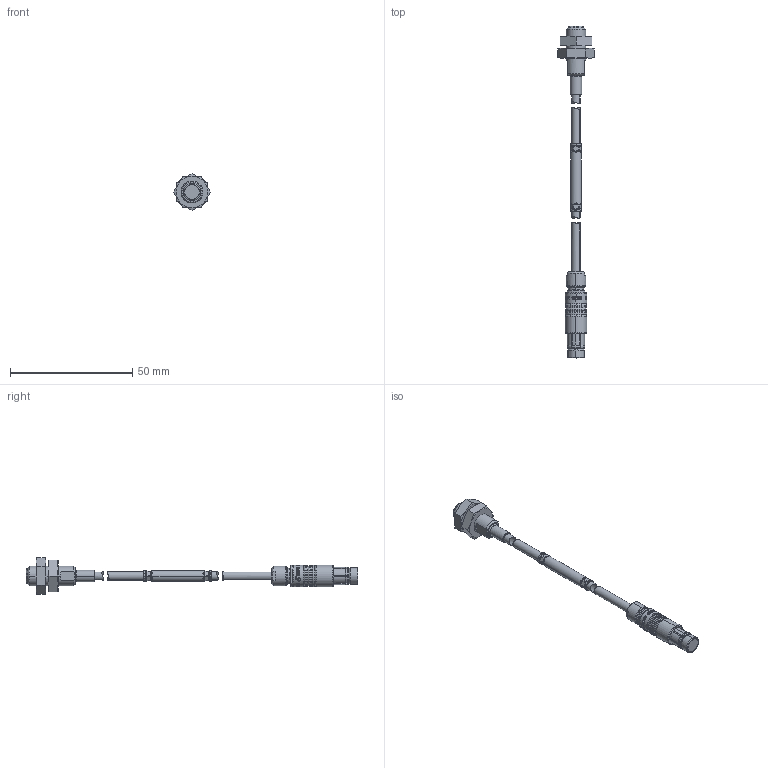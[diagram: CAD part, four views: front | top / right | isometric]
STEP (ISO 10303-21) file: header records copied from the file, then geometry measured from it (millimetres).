
FILE_DESCRIPTION((''),'2;1');
FILE_NAME('Z2609160_80-A','2023-04-20T10:41:08',('11000775'),(''),'CREO PARAMETRIC BY PTC INC, 2020184','CREO PARAMETRIC BY PTC INC, 2020184','');
FILE_SCHEMA(('AUTOMOTIVE_DESIGN { 1 0 10303 214 1 1 1 1 }'));
Products named in the file (1): Z2609160_80-A
Bounding box: 15.01 x 135.94 x 15.01 mm (x, y, z)
Volume: 4355.3 mm3; surface area: 4976.7 mm2
Topology: 4 solids, 4 shells, 958 faces, 2589 edges, 1693 vertices
Faces by surface type: bspline 338, plane 321, cylinder 170, cone 89, torus 40
Entity records: 53677 total; most frequent: CARTESIAN_POINT 15364, ORIENTED_EDGE 5178, DIRECTION 4662, PRESENTATION_STYLE_ASSIGNMENT 3551, STYLED_ITEM 2593, CURVE_STYLE 2589, EDGE_CURVE 2589, AXIS2_PLACEMENT_3D 1748
